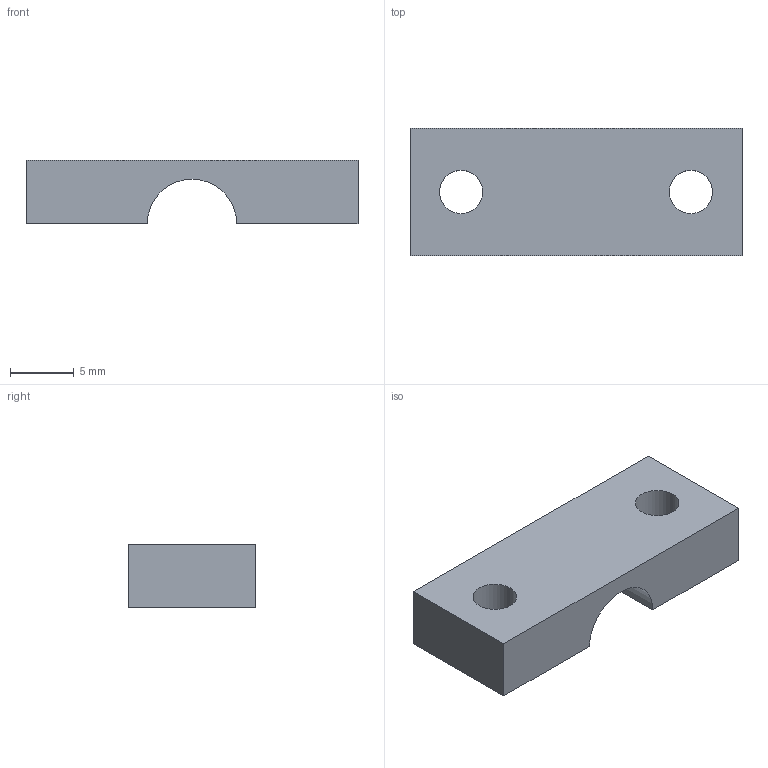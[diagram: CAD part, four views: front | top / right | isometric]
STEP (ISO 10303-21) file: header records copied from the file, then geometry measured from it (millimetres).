
FILE_DESCRIPTION(('Open CASCADE Model'),'2;1');
FILE_NAME('Open CASCADE Shape Model','2026-11-19T15:07:55',('Author'),( 'Open CASCADE'),'Open CASCADE STEP processor 8.0','Open CASCADE 8.0' ,'Unknown');
FILE_SCHEMA(('AUTOMOTIVE_DESIGN { 1 0 10303 214 1 1 1 1 }'));
Length unit declared in the file: millimetre
Products named in the file (1): Open CASCADE STEP translator 8.0 15
Bounding box: 26 x 10 x 5 mm (x, y, z)
Volume: 1016.8 mm3; surface area: 952 mm2
Topology: 1 solids, 1 shells, 11 faces, 27 edges, 18 vertices
Faces by surface type: plane 7, cylinder 4
Full cylindrical faces by diameter (mm): 3.4 x2
Entity records: 698 total; most frequent: DIRECTION 113, CARTESIAN_POINT 111, LINE 65, VECTOR 65, ORIENTED_EDGE 54, PCURVE 54, DEFINITIONAL_REPRESENTATION 54, EDGE_CURVE 27
